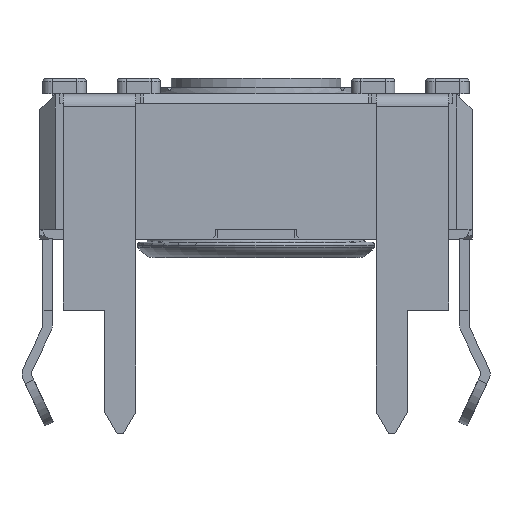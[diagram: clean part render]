
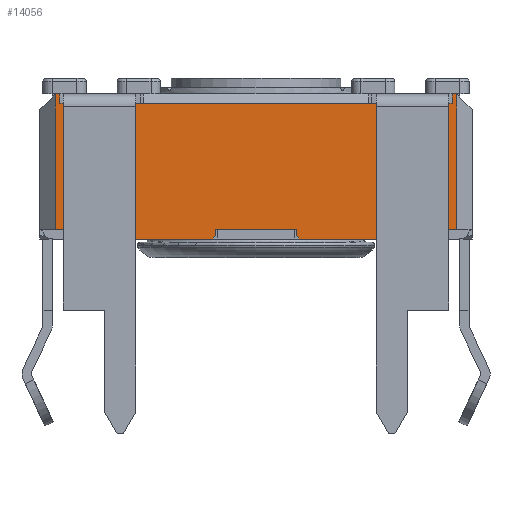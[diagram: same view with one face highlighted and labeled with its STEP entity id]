
A CAD part, front view. The second image highlights one B-rep face of the part: STEP entity #14056.
In plain terms, the highlighted planar face has unit normal (0, -1, 0).
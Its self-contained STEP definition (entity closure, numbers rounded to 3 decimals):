
#1093=FACE_OUTER_BOUND('',#1824,.T.);
#1824=EDGE_LOOP('',(#11103,#11104,#11105,#11106,#11107,#11108,#11109,#11110,
#11111,#11112,#11113,#11114,#11115,#11116,#11117,#11118,#11119,#11120,#11121,
#11122,#11123,#11124,#11125,#11126,#11127));
#2495=LINE('',#20203,#4103);
#2498=LINE('',#20211,#4106);
#2524=LINE('',#20262,#4132);
#2525=LINE('',#20264,#4133);
#2528=LINE('',#20272,#4136);
#2554=LINE('',#20323,#4162);
#2746=LINE('',#20887,#4354);
#2759=LINE('',#20911,#4367);
#2911=LINE('',#21459,#4519);
#3075=LINE('',#21901,#4683);
#3080=LINE('',#21911,#4688);
#3085=LINE('',#21921,#4693);
#3100=LINE('',#21947,#4708);
#3186=LINE('',#22221,#4794);
#3194=LINE('',#22239,#4802);
#3200=LINE('',#22247,#4808);
#3201=LINE('',#22250,#4809);
#3202=LINE('',#22252,#4810);
#3203=LINE('',#22254,#4811);
#3204=LINE('',#22255,#4812);
#3205=LINE('',#22256,#4813);
#3206=LINE('',#22257,#4814);
#3207=LINE('',#22258,#4815);
#3208=LINE('',#22259,#4816);
#3209=LINE('',#22260,#4817);
#4103=VECTOR('',#16222,10.);
#4106=VECTOR('',#16233,10.);
#4132=VECTOR('',#16261,10.);
#4133=VECTOR('',#16264,10.);
#4136=VECTOR('',#16275,10.);
#4162=VECTOR('',#16303,10.);
#4354=VECTOR('',#16873,10.);
#4367=VECTOR('',#16900,10.);
#4519=VECTOR('',#17272,10.);
#4683=VECTOR('',#17568,10.);
#4688=VECTOR('',#17573,10.);
#4693=VECTOR('',#17578,10.);
#4708=VECTOR('',#17595,10.);
#4794=VECTOR('',#17815,10.);
#4802=VECTOR('',#17827,10.);
#4808=VECTOR('',#17837,10.);
#4809=VECTOR('',#17840,10.);
#4810=VECTOR('',#17841,10.);
#4811=VECTOR('',#17842,10.);
#4812=VECTOR('',#17843,10.);
#4813=VECTOR('',#17844,10.);
#4814=VECTOR('',#17845,10.);
#4815=VECTOR('',#17846,10.);
#4816=VECTOR('',#17847,10.);
#4817=VECTOR('',#17848,10.);
#5394=VERTEX_POINT('',#19455);
#5404=VERTEX_POINT('',#19477);
#5412=VERTEX_POINT('',#19498);
#5451=VERTEX_POINT('',#19595);
#5671=VERTEX_POINT('',#20210);
#5695=VERTEX_POINT('',#20260);
#5696=VERTEX_POINT('',#20271);
#5720=VERTEX_POINT('',#20321);
#5902=VERTEX_POINT('',#20884);
#5903=VERTEX_POINT('',#20886);
#5906=VERTEX_POINT('',#20908);
#5907=VERTEX_POINT('',#20910);
#6036=VERTEX_POINT('',#21455);
#6153=VERTEX_POINT('',#21900);
#6157=VERTEX_POINT('',#21908);
#6158=VERTEX_POINT('',#21910);
#6162=VERTEX_POINT('',#21918);
#6163=VERTEX_POINT('',#21920);
#6225=VERTEX_POINT('',#22219);
#6226=VERTEX_POINT('',#22220);
#6233=VERTEX_POINT('',#22237);
#6234=VERTEX_POINT('',#22238);
#6235=VERTEX_POINT('',#22249);
#6236=VERTEX_POINT('',#22251);
#6237=VERTEX_POINT('',#22253);
#7104=EDGE_CURVE('',#5451,#5412,#2495,.T.);
#7107=EDGE_CURVE('',#5671,#5451,#2498,.T.);
#7133=EDGE_CURVE('',#5412,#5695,#2524,.T.);
#7134=EDGE_CURVE('',#5394,#5404,#2525,.T.);
#7137=EDGE_CURVE('',#5696,#5394,#2528,.T.);
#7163=EDGE_CURVE('',#5404,#5720,#2554,.T.);
#7446=EDGE_CURVE('',#5903,#5902,#2746,.T.);
#7459=EDGE_CURVE('',#5907,#5906,#2759,.T.);
#7666=EDGE_CURVE('',#5907,#6036,#2911,.T.);
#7851=EDGE_CURVE('',#6153,#6036,#3075,.T.);
#7856=EDGE_CURVE('',#6158,#6157,#3080,.T.);
#7861=EDGE_CURVE('',#6163,#6162,#3085,.T.);
#7876=EDGE_CURVE('',#6163,#5902,#3100,.T.);
#7981=EDGE_CURVE('',#6225,#6226,#3186,.T.);
#7989=EDGE_CURVE('',#6233,#6234,#3194,.T.);
#7995=EDGE_CURVE('',#6158,#6225,#3200,.T.);
#7996=EDGE_CURVE('',#6157,#6235,#3201,.T.);
#7997=EDGE_CURVE('',#6236,#6235,#3202,.T.);
#7998=EDGE_CURVE('',#6236,#6237,#3203,.T.);
#7999=EDGE_CURVE('',#6237,#6153,#3204,.T.);
#8000=EDGE_CURVE('',#5906,#5696,#3205,.T.);
#8001=EDGE_CURVE('',#5671,#5720,#3206,.T.);
#8002=EDGE_CURVE('',#5695,#5903,#3207,.T.);
#8003=EDGE_CURVE('',#6162,#6234,#3208,.T.);
#8004=EDGE_CURVE('',#6233,#6226,#3209,.T.);
#11103=ORIENTED_EDGE('',*,*,#7981,.F.);
#11104=ORIENTED_EDGE('',*,*,#7995,.F.);
#11105=ORIENTED_EDGE('',*,*,#7856,.T.);
#11106=ORIENTED_EDGE('',*,*,#7996,.T.);
#11107=ORIENTED_EDGE('',*,*,#7997,.F.);
#11108=ORIENTED_EDGE('',*,*,#7998,.T.);
#11109=ORIENTED_EDGE('',*,*,#7999,.T.);
#11110=ORIENTED_EDGE('',*,*,#7851,.T.);
#11111=ORIENTED_EDGE('',*,*,#7666,.F.);
#11112=ORIENTED_EDGE('',*,*,#7459,.T.);
#11113=ORIENTED_EDGE('',*,*,#8000,.T.);
#11114=ORIENTED_EDGE('',*,*,#7137,.T.);
#11115=ORIENTED_EDGE('',*,*,#7134,.T.);
#11116=ORIENTED_EDGE('',*,*,#7163,.T.);
#11117=ORIENTED_EDGE('',*,*,#8001,.F.);
#11118=ORIENTED_EDGE('',*,*,#7107,.T.);
#11119=ORIENTED_EDGE('',*,*,#7104,.T.);
#11120=ORIENTED_EDGE('',*,*,#7133,.T.);
#11121=ORIENTED_EDGE('',*,*,#8002,.T.);
#11122=ORIENTED_EDGE('',*,*,#7446,.T.);
#11123=ORIENTED_EDGE('',*,*,#7876,.F.);
#11124=ORIENTED_EDGE('',*,*,#7861,.T.);
#11125=ORIENTED_EDGE('',*,*,#8003,.T.);
#11126=ORIENTED_EDGE('',*,*,#7989,.F.);
#11127=ORIENTED_EDGE('',*,*,#8004,.T.);
#13136=PLANE('',#15019);
#14056=ADVANCED_FACE('',(#1093),#13136,.T.);
#15019=AXIS2_PLACEMENT_3D('',#22248,#17838,#17839);
#16222=DIRECTION('',(-1.,0.,0.));
#16233=DIRECTION('',(-1.,0.,0.));
#16261=DIRECTION('',(-1.,0.,0.));
#16264=DIRECTION('',(-1.,0.,0.));
#16275=DIRECTION('',(-1.,0.,0.));
#16303=DIRECTION('',(-1.,0.,0.));
#16873=DIRECTION('',(-1.,0.,0.));
#16900=DIRECTION('',(-1.,0.,0.));
#17272=DIRECTION('',(0.,0.,-1.));
#17568=DIRECTION('',(1.,0.,0.));
#17573=DIRECTION('',(1.,0.,0.));
#17578=DIRECTION('',(1.,0.,0.));
#17595=DIRECTION('',(0.,0.,1.));
#17815=DIRECTION('',(-0.707,0.,-0.707));
#17827=DIRECTION('',(-0.707,0.,0.707));
#17837=DIRECTION('',(0.,0.,-1.));
#17838=DIRECTION('center_axis',(0.,-1.,0.));
#17839=DIRECTION('ref_axis',(0.,0.,-1.));
#17840=DIRECTION('',(0.,0.,-1.));
#17841=DIRECTION('',(-0.707,0.,0.707));
#17842=DIRECTION('',(1.,0.,0.));
#17843=DIRECTION('',(0.,0.,1.));
#17844=DIRECTION('',(0.,0.,-1.));
#17845=DIRECTION('',(1.,0.,0.));
#17846=DIRECTION('',(0.,0.,1.));
#17847=DIRECTION('',(0.,0.,-1.));
#17848=DIRECTION('',(1.,0.,0.));
#19455=CARTESIAN_POINT('',(-1.217,-9.898,4.1));
#19477=CARTESIAN_POINT('',(-3.567,-9.898,4.1));
#19498=CARTESIAN_POINT('',(-13.717,-9.898,4.1));
#19595=CARTESIAN_POINT('',(-11.367,-9.898,4.1));
#20203=CARTESIAN_POINT('',(-3.944,-9.898,4.1));
#20210=CARTESIAN_POINT('',(-11.117,-9.898,4.1));
#20211=CARTESIAN_POINT('',(-3.944,-9.898,4.1));
#20260=CARTESIAN_POINT('',(-13.817,-9.898,4.1));
#20262=CARTESIAN_POINT('',(-3.944,-9.898,4.1));
#20264=CARTESIAN_POINT('',(-1.862,-9.898,4.1));
#20271=CARTESIAN_POINT('',(-1.117,-9.898,4.1));
#20272=CARTESIAN_POINT('',(-1.862,-9.898,4.1));
#20321=CARTESIAN_POINT('',(-3.817,-9.898,4.1));
#20323=CARTESIAN_POINT('',(-1.862,-9.898,4.1));
#20884=CARTESIAN_POINT('',(-13.967,-9.898,4.4));
#20886=CARTESIAN_POINT('',(-13.817,-9.898,4.4));
#20887=CARTESIAN_POINT('',(-14.467,-9.898,4.4));
#20908=CARTESIAN_POINT('',(-1.117,-9.898,4.4));
#20910=CARTESIAN_POINT('',(-0.967,-9.898,4.4));
#20911=CARTESIAN_POINT('',(-14.467,-9.898,4.4));
#21455=CARTESIAN_POINT('',(-0.967,-9.898,0.));
#21459=CARTESIAN_POINT('',(-0.967,-9.898,0.));
#21900=CARTESIAN_POINT('',(-1.467,-9.898,0.));
#21901=CARTESIAN_POINT('',(-0.646,-9.898,0.));
#21908=CARTESIAN_POINT('',(-6.167,-9.898,0.));
#21910=CARTESIAN_POINT('',(-8.767,-9.898,0.));
#21911=CARTESIAN_POINT('',(-14.467,-9.898,0.));
#21918=CARTESIAN_POINT('',(-13.467,-9.898,0.));
#21920=CARTESIAN_POINT('',(-13.967,-9.898,0.));
#21921=CARTESIAN_POINT('',(-7.245,-9.898,0.));
#21947=CARTESIAN_POINT('',(-13.967,-9.898,0.));
#22219=CARTESIAN_POINT('',(-8.767,-9.898,-0.2));
#22220=CARTESIAN_POINT('',(-8.867,-9.898,-0.3));
#22221=CARTESIAN_POINT('',(-6.667,-9.898,1.9));
#22237=CARTESIAN_POINT('',(-13.367,-9.898,-0.3));
#22238=CARTESIAN_POINT('',(-13.467,-9.898,-0.2));
#22239=CARTESIAN_POINT('',(-10.242,-9.898,-3.425));
#22247=CARTESIAN_POINT('',(-8.767,-9.898,0.));
#22248=CARTESIAN_POINT('Origin',(-0.467,-9.898,0.));
#22249=CARTESIAN_POINT('',(-6.167,-9.898,-0.2));
#22250=CARTESIAN_POINT('',(-6.167,-9.898,0.));
#22251=CARTESIAN_POINT('',(-6.067,-9.898,-0.3));
#22252=CARTESIAN_POINT('',(-4.767,-9.898,-1.6));
#22253=CARTESIAN_POINT('',(-1.467,-9.898,-0.3));
#22254=CARTESIAN_POINT('',(-0.467,-9.898,-0.3));
#22255=CARTESIAN_POINT('',(-1.467,-9.898,-0.15));
#22256=CARTESIAN_POINT('',(-1.117,-9.898,2.2));
#22257=CARTESIAN_POINT('',(-3.967,-9.898,4.1));
#22258=CARTESIAN_POINT('',(-13.817,-9.898,2.2));
#22259=CARTESIAN_POINT('',(-13.467,-9.898,-0.15));
#22260=CARTESIAN_POINT('',(-0.467,-9.898,-0.3));
